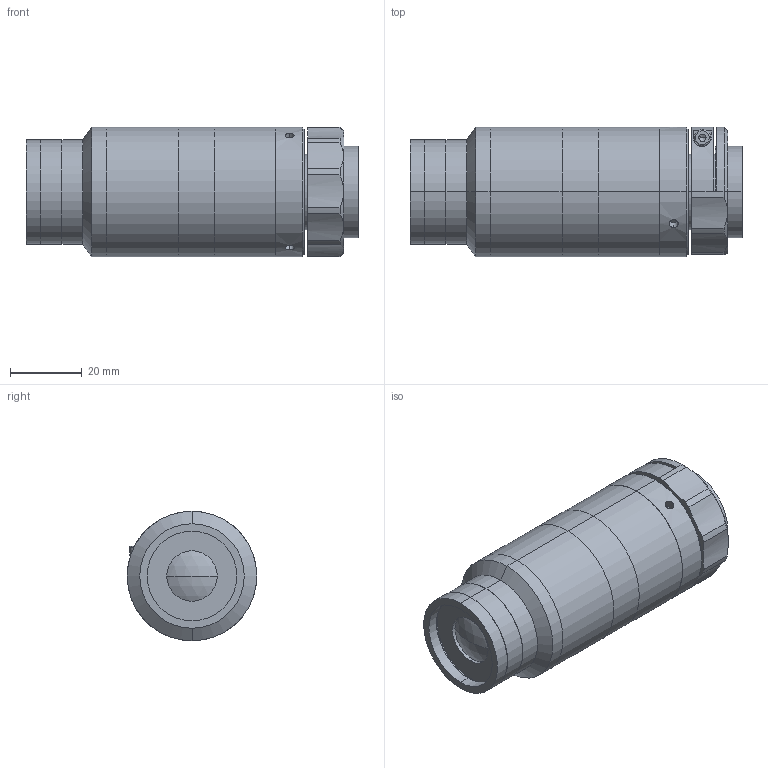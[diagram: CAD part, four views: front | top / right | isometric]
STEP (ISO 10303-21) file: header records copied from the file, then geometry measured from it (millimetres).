
FILE_DESCRIPTION (( 'STEP AP203' ), '1' );
FILE_NAME ('XF-MH09X86.STEP', '2020-08-24T07:08:21', ( 'canrill-02' ), ( '' ), 'SwSTEP 2.0', 'SolidWorks 2014', '' );
FILE_SCHEMA (( 'CONFIG_CONTROL_DESIGN' ));
Length unit declared in the file: millimetre
Products named in the file (1): XF-MH09X86
Bounding box: 92.24 x 36 x 36 mm (x, y, z)
Surface area: 16789.1 mm2 (no closed solid volume)
Topology: 0 solids, 13 shells, 106 faces, 282 edges, 192 vertices
Faces by surface type: cylinder 51, plane 36, cone 15, sphere 2, torus 2
Entity records: 3687 total; most frequent: CARTESIAN_POINT 900, DIRECTION 625, ORIENTED_EDGE 475, EDGE_CURVE 280, AXIS2_PLACEMENT_3D 261, VERTEX_POINT 192, CIRCLE 154, EDGE_LOOP 133
